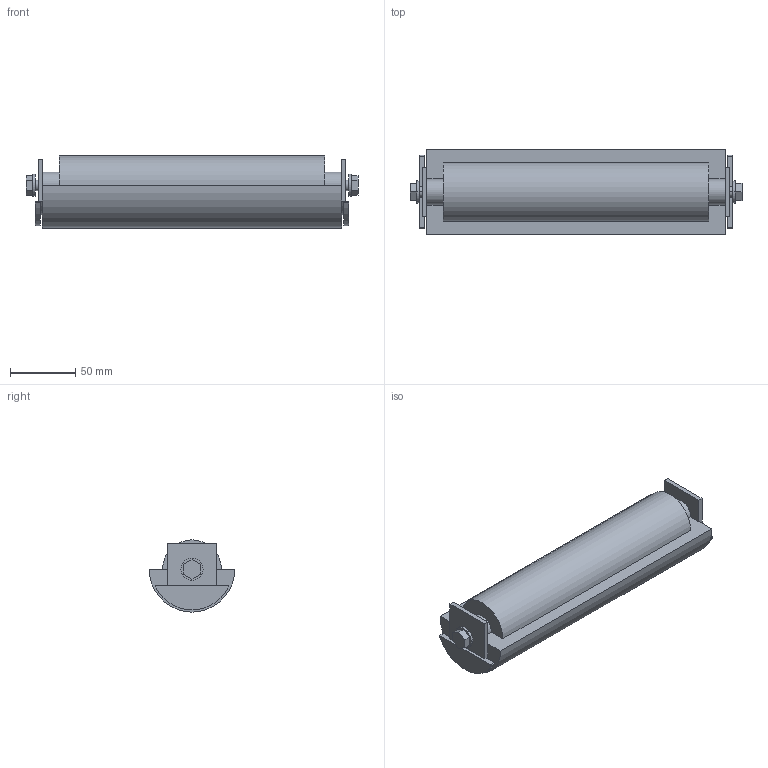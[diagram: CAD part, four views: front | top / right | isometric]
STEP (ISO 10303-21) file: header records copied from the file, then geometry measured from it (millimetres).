
FILE_DESCRIPTION (( 'STEP AP214' ), '1' );
FILE_NAME ('03.102I01.240.N FS-240-MTS2-100.INOX Idler section.STEP', '2025-02-11T11:24:26', ( '' ), ( '' ), 'SwSTEP 2.0', 'SolidWorks 2024', '' );
FILE_SCHEMA (( 'AUTOMOTIVE_DESIGN' ));
Length unit declared in the file: millimetre
Products named in the file (1): 03.102I01.240.N FS-240-MTS2-100.INOX Idler section
Bounding box: 253.8 x 65.4 x 55.2 mm (x, y, z)
Volume: 566994.8 mm3; surface area: 56399.1 mm2
Topology: 1 solids, 1 shells, 64 faces, 164 edges, 108 vertices
Faces by surface type: plane 40, cylinder 24
Entity records: 1967 total; most frequent: DIRECTION 342, CARTESIAN_POINT 337, ORIENTED_EDGE 328, EDGE_CURVE 164, VECTOR 116, LINE 116, AXIS2_PLACEMENT_3D 113, VERTEX_POINT 108
